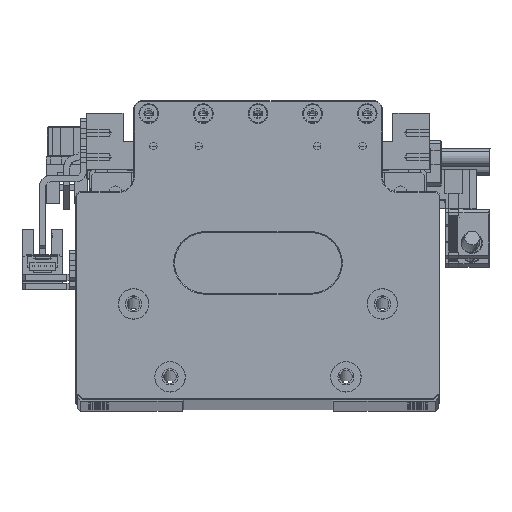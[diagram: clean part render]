
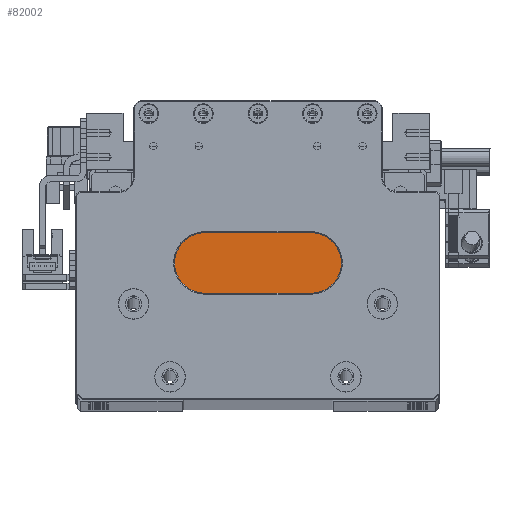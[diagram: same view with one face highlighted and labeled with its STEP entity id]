
A CAD part, top view. The second image highlights one B-rep face of the part: STEP entity #82002.
In plain terms, the highlighted planar face has unit normal (0, 0, 1).
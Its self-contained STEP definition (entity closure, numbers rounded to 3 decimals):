
#332 = EDGE_CURVE ( 'NONE', #50357, #96972, #24725, .T. ) ;
#398 = EDGE_CURVE ( 'NONE', #132963, #36910, #103631, .T. ) ;
#3112 = CARTESIAN_POINT ( 'NONE',  ( -23.132, -9.023, 340. ) ) ;
#6552 = ORIENTED_EDGE ( 'NONE', *, *, #42045, .T. ) ;
#6941 = VERTEX_POINT ( 'NONE', #23489 ) ;
#7471 = FACE_BOUND ( 'NONE', #77638, .T. ) ;
#9746 = CARTESIAN_POINT ( 'NONE',  ( 2.868, -17.023, 340. ) ) ;
#11156 = CIRCLE ( 'NONE', #21295, 1.25 ) ;
#11417 = CARTESIAN_POINT ( 'NONE',  ( 13.868, -17.023, 340. ) ) ;
#11678 = EDGE_CURVE ( 'NONE', #86189, #50357, #95690, .T. ) ;
#13582 = EDGE_CURVE ( 'NONE', #90794, #132963, #116198, .T. ) ;
#15254 = PLANE ( 'NONE',  #112055 ) ;
#15496 = LINE ( 'NONE', #47902, #118508 ) ;
#20089 = DIRECTION ( 'NONE',  ( 1., 0., 0. ) ) ;
#21255 = LINE ( 'NONE', #31707, #45347 ) ;
#21295 = AXIS2_PLACEMENT_3D ( 'NONE', #91768, #30103, #102101 ) ;
#21613 = DIRECTION ( 'NONE',  ( 0., 0., -1. ) ) ;
#22357 = CARTESIAN_POINT ( 'NONE',  ( -23.132, -17.023, 340. ) ) ;
#23489 = CARTESIAN_POINT ( 'NONE',  ( 4.118, -17.023, 340. ) ) ;
#24725 = LINE ( 'NONE', #132623, #130972 ) ;
#24801 = ORIENTED_EDGE ( 'NONE', *, *, #398, .T. ) ;
#25570 = CARTESIAN_POINT ( 'NONE',  ( -4.632, -9.023, 340. ) ) ;
#26982 = CARTESIAN_POINT ( 'NONE',  ( -23.132, -9.223, 340. ) ) ;
#27589 = AXIS2_PLACEMENT_3D ( 'NONE', #83260, #21613, #93585 ) ;
#27673 = DIRECTION ( 'NONE',  ( 0., 1., 0. ) ) ;
#30103 = DIRECTION ( 'NONE',  ( 0., 0., -1. ) ) ;
#30162 = ORIENTED_EDGE ( 'NONE', *, *, #88804, .T. ) ;
#30169 = EDGE_CURVE ( 'NONE', #40764, #70899, #58444, .T. ) ;
#30479 = CARTESIAN_POINT ( 'NONE',  ( -34.432, -9.023, 340. ) ) ;
#31256 = CARTESIAN_POINT ( 'NONE',  ( -13.382, -17.023, 340. ) ) ;
#31707 = CARTESIAN_POINT ( 'NONE',  ( -34.632, -49.023, 340. ) ) ;
#34079 = DIRECTION ( 'NONE',  ( 0., -1., 0. ) ) ;
#34828 = FACE_BOUND ( 'NONE', #37419, .T. ) ;
#35119 = DIRECTION ( 'NONE',  ( 0., 1., 0. ) ) ;
#35451 = CARTESIAN_POINT ( 'NONE',  ( 25.168, -49.023, 340. ) ) ;
#36910 = VERTEX_POINT ( 'NONE', #54762 ) ;
#37419 = EDGE_LOOP ( 'NONE', ( #43326, #91377 ) ) ;
#37671 = VECTOR ( 'NONE', #35119, 1000. ) ;
#38232 = AXIS2_PLACEMENT_3D ( 'NONE', #120569, #58973, #130926 ) ;
#40764 = VERTEX_POINT ( 'NONE', #105929 ) ;
#42005 = DIRECTION ( 'NONE',  ( 1., 0., 0. ) ) ;
#42045 = EDGE_CURVE ( 'NONE', #132576, #90794, #60233, .T. ) ;
#42295 = EDGE_CURVE ( 'NONE', #110888, #6941, #61774, .T. ) ;
#43326 = ORIENTED_EDGE ( 'NONE', *, *, #30169, .T. ) ;
#44714 = EDGE_CURVE ( 'NONE', #70899, #40764, #111350, .T. ) ;
#45347 = VECTOR ( 'NONE', #42005, 1000. ) ;
#47902 = CARTESIAN_POINT ( 'NONE',  ( 13.868, -9.023, 340. ) ) ;
#50357 = VERTEX_POINT ( 'NONE', #87467 ) ;
#54762 = CARTESIAN_POINT ( 'NONE',  ( -34.432, -49.023, 340. ) ) ;
#55131 = ORIENTED_EDGE ( 'NONE', *, *, #11678, .T. ) ;
#55368 = CARTESIAN_POINT ( 'NONE',  ( -4.632, -17.023, 340. ) ) ;
#56222 = AXIS2_PLACEMENT_3D ( 'NONE', #9746, #81733, #20089 ) ;
#56614 = DIRECTION ( 'NONE',  ( 0., 0., 1. ) ) ;
#58444 = CIRCLE ( 'NONE', #27589, 1.25 ) ;
#58973 = DIRECTION ( 'NONE',  ( 0., 0., -1. ) ) ;
#60233 = LINE ( 'NONE', #3112, #84339 ) ;
#61774 = CIRCLE ( 'NONE', #56222, 1.25 ) ;
#66702 = DIRECTION ( 'NONE',  ( -1., 0., 0. ) ) ;
#68192 = CARTESIAN_POINT ( 'NONE',  ( 1.618, -17.023, 340. ) ) ;
#69765 = VECTOR ( 'NONE', #112834, 1000. ) ;
#70899 = VERTEX_POINT ( 'NONE', #31256 ) ;
#74172 = EDGE_CURVE ( 'NONE', #78799, #132576, #95802, .T. ) ;
#74882 = EDGE_LOOP ( 'NONE', ( #86339, #6552, #110114, #24801, #30162, #55131, #102863, #79476 ) ) ;
#76633 = ORIENTED_EDGE ( 'NONE', *, *, #42295, .T. ) ;
#77638 = EDGE_LOOP ( 'NONE', ( #114833, #76633 ) ) ;
#78799 = VERTEX_POINT ( 'NONE', #99659 ) ;
#79476 = ORIENTED_EDGE ( 'NONE', *, *, #93111, .T. ) ;
#81341 = DIRECTION ( 'NONE',  ( -1., 0., 0. ) ) ;
#81733 = DIRECTION ( 'NONE',  ( 0., 0., -1. ) ) ;
#82002 = ADVANCED_FACE ( 'NONE', ( #116963, #7471, #34828 ), #15254, .T. ) ;
#82388 = VECTOR ( 'NONE', #127357, 1000. ) ;
#83260 = CARTESIAN_POINT ( 'NONE',  ( -12.132, -17.023, 340. ) ) ;
#84339 = VECTOR ( 'NONE', #34079, 1000. ) ;
#86189 = VERTEX_POINT ( 'NONE', #35451 ) ;
#86339 = ORIENTED_EDGE ( 'NONE', *, *, #74172, .T. ) ;
#86892 = CARTESIAN_POINT ( 'NONE',  ( 25.168, -9.023, 340. ) ) ;
#87467 = CARTESIAN_POINT ( 'NONE',  ( 25.168, -17.023, 340. ) ) ;
#88804 = EDGE_CURVE ( 'NONE', #36910, #86189, #21255, .T. ) ;
#90794 = VERTEX_POINT ( 'NONE', #22357 ) ;
#91377 = ORIENTED_EDGE ( 'NONE', *, *, #44714, .T. ) ;
#91768 = CARTESIAN_POINT ( 'NONE',  ( 2.868, -17.023, 340. ) ) ;
#93111 = EDGE_CURVE ( 'NONE', #96972, #78799, #15496, .T. ) ;
#93585 = DIRECTION ( 'NONE',  ( 1., 0., 0. ) ) ;
#95690 = LINE ( 'NONE', #86892, #37671 ) ;
#95802 = LINE ( 'NONE', #128353, #126363 ) ;
#96972 = VERTEX_POINT ( 'NONE', #11417 ) ;
#99659 = CARTESIAN_POINT ( 'NONE',  ( 13.868, -9.223, 340. ) ) ;
#102101 = DIRECTION ( 'NONE',  ( 1., 0., 0. ) ) ;
#102863 = ORIENTED_EDGE ( 'NONE', *, *, #332, .T. ) ;
#103631 = LINE ( 'NONE', #30479, #69765 ) ;
#105929 = CARTESIAN_POINT ( 'NONE',  ( -10.882, -17.023, 340. ) ) ;
#110114 = ORIENTED_EDGE ( 'NONE', *, *, #13582, .T. ) ;
#110888 = VERTEX_POINT ( 'NONE', #68192 ) ;
#111350 = CIRCLE ( 'NONE', #38232, 1.25 ) ;
#112055 = AXIS2_PLACEMENT_3D ( 'NONE', #25570, #56614, #128604 ) ;
#112834 = DIRECTION ( 'NONE',  ( 0., -1., 0. ) ) ;
#114833 = ORIENTED_EDGE ( 'NONE', *, *, #130682, .T. ) ;
#116198 = LINE ( 'NONE', #55368, #82388 ) ;
#116963 = FACE_OUTER_BOUND ( 'NONE', #74882, .T. ) ;
#118508 = VECTOR ( 'NONE', #27673, 1000. ) ;
#120569 = CARTESIAN_POINT ( 'NONE',  ( -12.132, -17.023, 340. ) ) ;
#124512 = CARTESIAN_POINT ( 'NONE',  ( -34.432, -17.023, 340. ) ) ;
#126363 = VECTOR ( 'NONE', #66702, 1000. ) ;
#127357 = DIRECTION ( 'NONE',  ( -1., 0., 0. ) ) ;
#128353 = CARTESIAN_POINT ( 'NONE',  ( -4.632, -9.223, 340. ) ) ;
#128604 = DIRECTION ( 'NONE',  ( 1., 0., 0. ) ) ;
#130682 = EDGE_CURVE ( 'NONE', #6941, #110888, #11156, .T. ) ;
#130926 = DIRECTION ( 'NONE',  ( 1., 0., 0. ) ) ;
#130972 = VECTOR ( 'NONE', #81341, 1000. ) ;
#132576 = VERTEX_POINT ( 'NONE', #26982 ) ;
#132623 = CARTESIAN_POINT ( 'NONE',  ( -4.632, -17.023, 340. ) ) ;
#132963 = VERTEX_POINT ( 'NONE', #124512 ) ;
